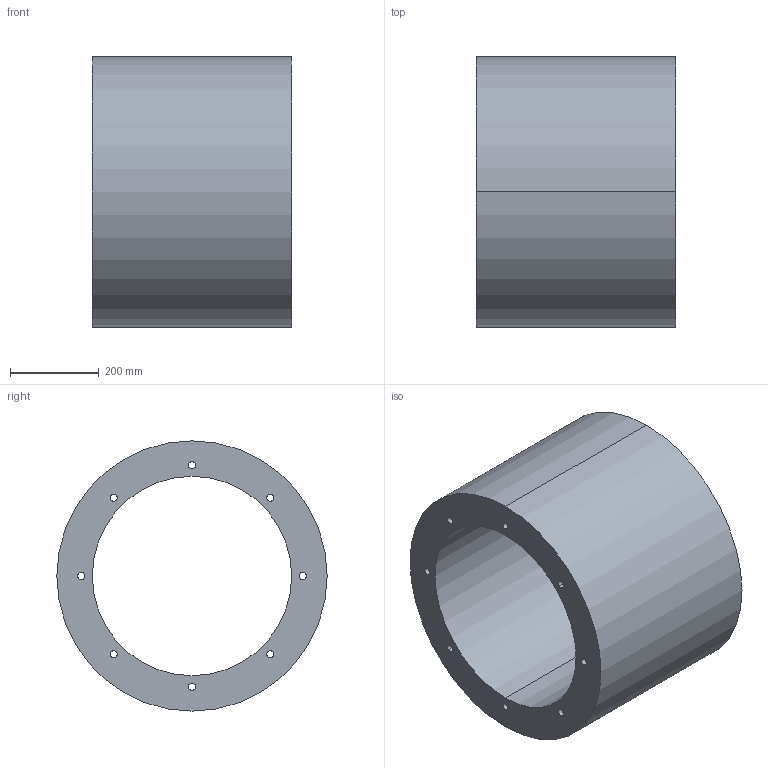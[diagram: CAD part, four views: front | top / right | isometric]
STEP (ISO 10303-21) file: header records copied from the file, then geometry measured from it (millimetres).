
FILE_DESCRIPTION(('STEP AP214'),'1');
FILE_NAME('accessory_5211810200.stp','2017-10-09T11:36:47',('TraceParts'),('TraceParts S.A.'),'Spatial InterOp 3D',' ',' ');
FILE_SCHEMA(('automotive_design'));
Length unit declared in the file: millimetre
Products named in the file (1): accessory_5211810200
Bounding box: 450 x 610 x 610 mm (x, y, z)
Volume: 59217764.9 mm3; surface area: 1942685.5 mm2
Topology: 1 solids, 1 shells, 22 faces, 60 edges, 40 vertices
Faces by surface type: cylinder 20, plane 2
Entity records: 952 total; most frequent: DIRECTION 146, CARTESIAN_POINT 123, ORIENTED_EDGE 120, AXIS2_PLACEMENT_3D 63, EDGE_CURVE 60, EDGE_LOOP 40, VERTEX_POINT 40, CIRCLE 40
